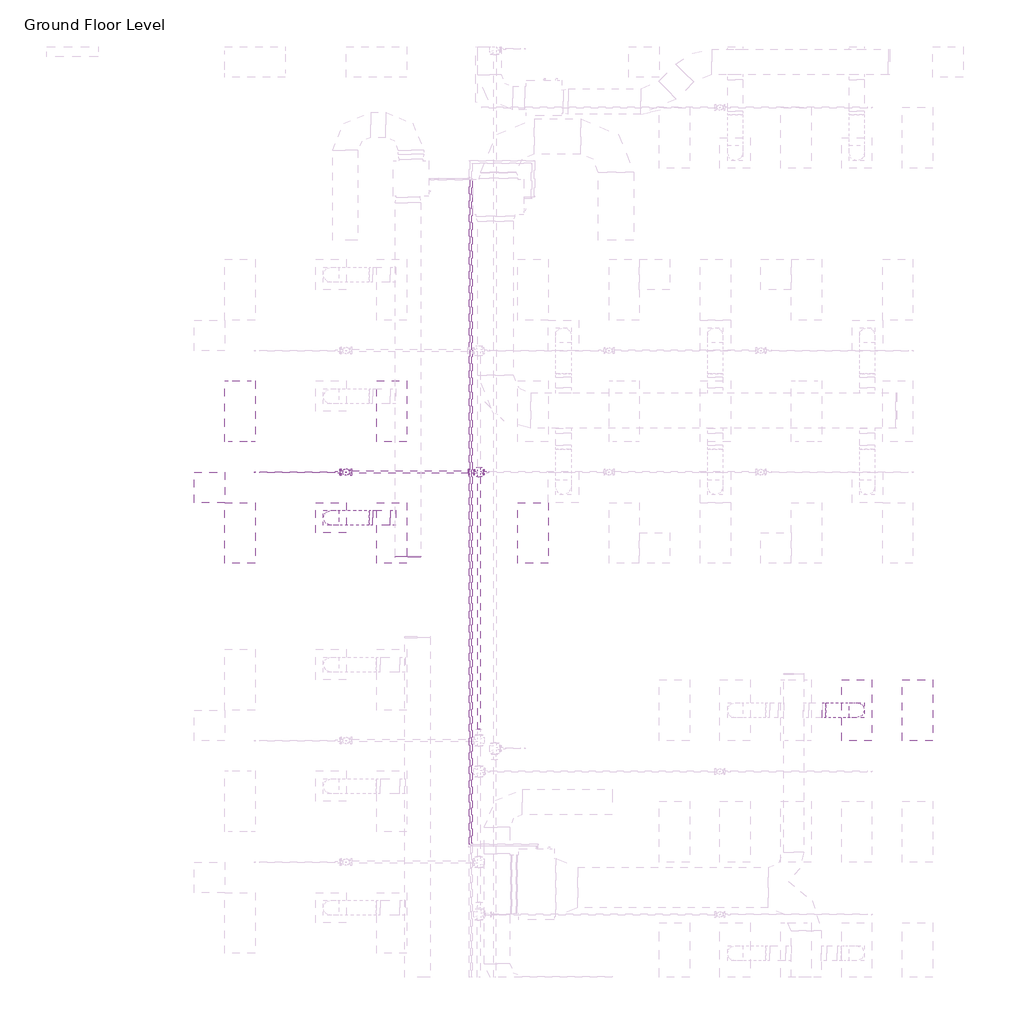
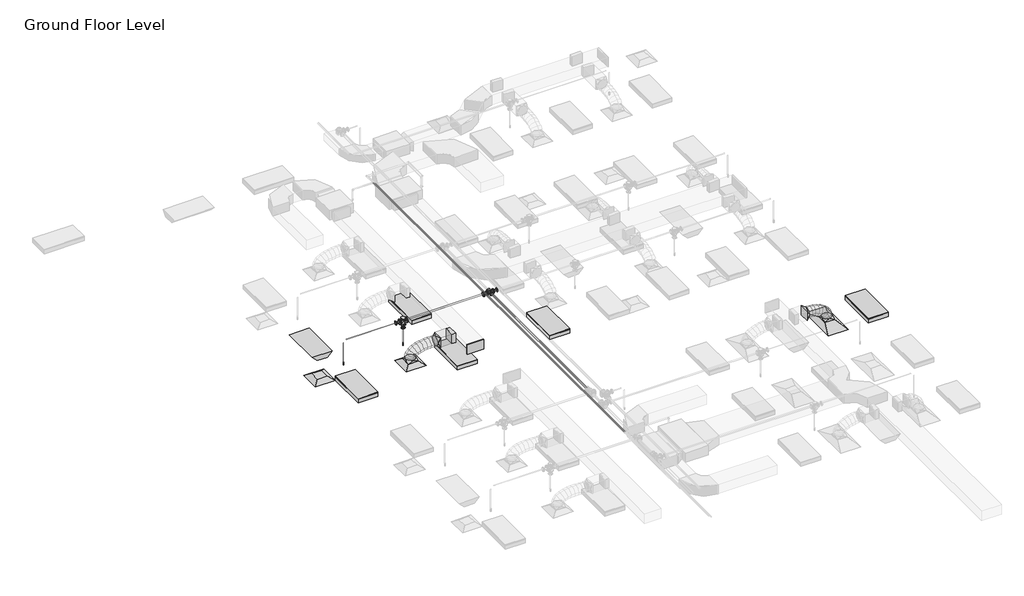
# One storey, part 28 of 66: 7 pipe segments, 6 duct fittings, 6 light fixtures, 6 pipe fittings, 3 air terminals, 3 duct segments, 2 fire suppression terminals.
"""IFC4 building model written with IfcOpenShell, lengths in millimetres."""

from ifc_helpers import new_model, si_unit, point, frame, frame_2d, origin, place, context, project, spatial, polyline, circle_curve, ellipse_curve, trimmed, segment, composite_curve, outline, extrude, transform, mapped, element, save
from ifc_brep_helpers import plane_surface, cylinder_surface, advanced_brep
from components import m_return_diffuser_600_x_600_face_300_x_300_connection_ff221211, m_return_diffuser_1200x600_1200_x_600_face_300_x_300_d1983ef6, m_rectangular_endcap_standard_72d4d00d, m_rectangular_takeoff_standard_2be5eba1, m_rectangular_to_round_transition_angle_45_degree_641efff0, m_sprinkler_dry_pendent_hosted_15_mm_dry_pendent_9bda8e11, m_emergency_recessed_lighting_fixture_600x1200_277_5b10b25d, m_troffer_light_parabolic_rectangular1_0600x1200mm_4_lamp_86473d4a, m_cross_flanged_cs_class_150_standard_46ec961b, m_reducer_flanged_cs_class_150_standard_b6b67c23, m_reducer_flanged_cs_class_150_standard_83138b42, m_reducer_flanged_cs_class_150_standard_dc68ad9d, m_reducer_flanged_cs_class_150_standard_84a20e65, m_tee_round_base_flanged_cs_class_150_standard_ab36f383

model = new_model("IFC4")

# Units and contexts
model_context = context("Model", 3, world=origin())
ifc_project = project(units=[si_unit("LENGTHUNIT", "METRE", prefix="MILLI")], contexts=[model_context])

# Site, building, storey
site = spatial("IfcSite", under=ifc_project)
building = spatial("IfcBuilding", under=site)
storey = spatial("IfcBuildingStorey", under=building, Name="Ground Floor Level", Elevation=900.0)

# Air terminals
placement = place(None, origin())
m_return_diffuser_600_x_600_face_300_x_300_connection_shape = m_return_diffuser_600_x_600_face_300_x_300_connection_ff221211(model_context)
element("IfcAirTerminal", 1, ObjectType="M_Return Diffuser : 600 x 600 Face 300 x 300 Connection", at=placement, inside=storey, context=model_context, shape_type="MappedRepresentation", body=[
    mapped(m_return_diffuser_600_x_600_face_300_x_300_connection_shape, transform((362.7672395, -13664.7846466, 3650.0), x_axis=(1.0, 0.0, 0.0), y_axis=(0.0, 1.0, 0.0), z_axis=(0.0, 0.0, 1.0))),
])
m_return_diffuser_1200x600_1200_x_600_face_300_x_300_shape = m_return_diffuser_1200x600_1200_x_600_face_300_x_300_d1983ef6(model_context)
element("IfcAirTerminal", 2, ObjectType="M_Supply Diffuser 1200x600 : 1200 x 600 Face 300 x 300 Connection", at=placement, inside=storey, context=model_context, shape_type="MappedRepresentation", body=[
    mapped(m_return_diffuser_1200x600_1200_x_600_face_300_x_300_shape, transform((13143.0482736, -18064.7846466, 3650.0), x_axis=(0.0, 1.0, 0.0), y_axis=(-1.0, 0.0, 0.0), z_axis=(0.0, 0.0, 1.0))),
])
element("IfcAirTerminal", 3, ObjectType="M_Supply Diffuser : 600 x 600 Face 300 x 300 Connection", at=placement, inside=storey, context=model_context, shape_type="MappedRepresentation", body=[
    mapped(m_return_diffuser_600_x_600_face_300_x_300_connection_shape, transform((2762.7672395, -14264.7846466, 3650.0), x_axis=(1.0, 0.0, 0.0), y_axis=(0.0, 1.0, 0.0), z_axis=(0.0, 0.0, 1.0))),
])

# Duct fittings
m_rectangular_endcap_standard_shape = m_rectangular_endcap_standard_72d4d00d(model_context)
element("IfcDuctFitting", 4, ObjectType="M_Rectangular Endcap : Standard", at=placement, inside=storey, context=model_context, shape_type="MappedRepresentation", body=[
    mapped(m_rectangular_endcap_standard_shape, transform((4282.1581888, -15020.4566353, 4099.9874218), x_axis=(0.0, -0.9999999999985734, -1.689189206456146e-06), y_axis=(1.0, 0.0, 0.0), z_axis=(0.0, -1.689189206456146e-06, 0.9999999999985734))),
])
m_rectangular_takeoff_standard_shape = m_rectangular_takeoff_standard_2be5eba1(model_context)
element("IfcDuctFitting", 5, ObjectType="M_Rectangular Takeoff : Standard", at=placement, inside=storey, context=model_context, shape_type="MappedRepresentation", body=[
    mapped(m_rectangular_takeoff_standard_shape, transform((4032.1581888, -14264.7846466, 4099.9887842), x_axis=(-1.0, 0.0, 0.0), y_axis=(0.0, 1.0, 0.0), z_axis=(0.0, 0.0, -1.0))),
])
m_rectangular_to_round_transition_angle_45_degree_shape = m_rectangular_to_round_transition_angle_45_degree_641efff0(model_context)
element("IfcDuctFitting", 6, ObjectType="M_Rectangular to Round Transition - Angle : 45 Degree", at=placement, inside=storey, context=model_context, shape_type="MappedRepresentation", body=[
    mapped(m_rectangular_to_round_transition_angle_45_degree_shape, transform((13143.0482736, -18064.7846466, 3751.6), x_axis=(0.0, 0.0, 1.0), y_axis=(-1.0, 0.0, 0.0), z_axis=(0.0, -1.0, 0.0))),
])
element("IfcDuctFitting", 7, ObjectType="M_Rectangular to Round Transition - Angle : 45 Degree", at=placement, inside=storey, context=model_context, shape_type="MappedRepresentation", body=[
    mapped(m_rectangular_to_round_transition_angle_45_degree_shape, transform((12461.6123423, -18064.7846466, 4150.0), x_axis=(1.0, 0.0, 0.0), y_axis=(0.0, 1.0, 0.0), z_axis=(0.0, 0.0, 1.0))),
])
element("IfcDuctFitting", 8, ObjectType="M_Rectangular to Round Transition - Angle : 45 Degree", at=placement, inside=storey, context=model_context, shape_type="MappedRepresentation", body=[
    mapped(m_rectangular_to_round_transition_angle_45_degree_shape, transform((2762.7672395, -14264.7846466, 3751.6), x_axis=(0.0, 0.0, 1.0), y_axis=(-1.0, 0.0, 0.0), z_axis=(0.0, -1.0, 0.0))),
])
element("IfcDuctFitting", 9, ObjectType="M_Rectangular to Round Transition - Angle : 45 Degree", at=placement, inside=storey, context=model_context, shape_type="MappedRepresentation", body=[
    mapped(m_rectangular_to_round_transition_angle_45_degree_shape, transform((3590.1143866, -14264.7846466, 4099.9887842), x_axis=(-1.0, 0.0, 0.0), y_axis=(0.0, -1.0, 0.0), z_axis=(0.0, 0.0, 1.0))),
])

# Duct segments
element("IfcDuctSegment", 10, ObjectType="Flex - Round", at=placement, inside=storey, context=model_context, shape_type="AdvancedBrep", body=[
    advanced_brep(
    [(13293.0482736, -18064.7846466, 3826.6), (13143.0482736, -18214.7846466, 3826.6), (12993.0482736, -18064.7846466, 3826.6), (13143.0482736, -17914.7846466, 3826.6), (13293.0482736, -18064.7846466, 3882.1261126), (13143.0482736, -18214.7846466, 3857.3049615), (12993.0482736, -18064.7846466, 3832.4838104), (13143.0482736, -17914.7846466, 3857.3049615), (13261.8549494, -18064.7846466, 3973.7995287), (13126.3868691, -18214.7846466, 3906.2708192), (12990.9187887, -18064.7846466, 3838.7421096), (13126.3868691, -17914.7846466, 3906.2708192), (13192.1209419, -18064.7846466, 4076.4123668), (13080.5088514, -18214.7846466, 3973.7798261), (12968.8967609, -18064.7846466, 3871.1472855), (13080.5088514, -17914.7846466, 3973.7798261), (13094.1929933, -18064.7846466, 4155.7111802), (13011.5735148, -18214.7846466, 4029.6013814), (12928.9540363, -18064.7846466, 3903.4915826), (13011.5735148, -17914.7846466, 4029.6013814), (12985.4484532, -18064.7846466, 4212.226815), (12925.7401534, -18214.7846466, 4074.2098454), (12866.0318537, -18064.7846466, 3936.1928758), (12925.7401534, -17914.7846466, 4074.2098454), (12871.156661, -18064.7846466, 4252.311196), (12829.1680613, -18214.7846466, 4108.0795788), (12787.1794617, -18064.7846466, 3963.8479616), (12829.1680613, -17914.7846466, 4108.0795788), (12755.4255864, -18064.7846466, 4279.3189347), (12728.0165327, -18214.7846466, 4131.684942), (12700.6074791, -18064.7846466, 3984.0509494), (12728.0165327, -17914.7846466, 4131.684942), (12642.7664277, -18064.7846466, 4294.9501488), (12628.4448617, -18214.7846466, 4145.5002956), (12614.1232957, -18064.7846466, 3996.0504424), (12628.4448617, -17914.7846466, 4145.5002956), (12547.9447851, -18064.7846466, 4300.0), (12543.9533896, -18214.7846466, 4150.0), (12539.9619941, -18064.7846466, 4000.0), (12543.9533896, -17914.7846466, 4150.0), (12536.6123423, -18064.7846466, 4300.0), (12536.6123423, -17914.7846466, 4150.0), (12536.6123423, -18064.7846466, 4000.0), (12536.6123423, -18214.7846466, 4150.0)],
    [
        (0, 1, circle_curve(frame((13143.0482736, -18064.7846466, 3826.6), z_axis=(0.0, 0.0, -1.0), x_axis=(1.0, 0.0, 0.0)), 150.0)),
        (1, 2, circle_curve(frame((13143.0482736, -18064.7846466, 3826.6), z_axis=(0.0, 0.0, -1.0), x_axis=(1.0, 0.0, 0.0)), 150.0)),
        (2, 3, circle_curve(frame((13143.0482736, -18064.7846466, 3826.6), z_axis=(0.0, 0.0, -1.0), x_axis=(1.0, 0.0, 0.0)), 150.0)),
        (3, 0, circle_curve(frame((13143.0482736, -18064.7846466, 3826.6), z_axis=(0.0, 0.0, -1.0), x_axis=(1.0, 0.0, 0.0)), 150.0)),
        (0, 4),
        (4, 5, ellipse_curve(frame((13143.0482736, -18064.7846466, 3857.3049615), z_axis=(0.16325433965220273, 0.0, -0.9865840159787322), x_axis=(-0.9865840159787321, 0.0, -0.1632543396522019)), 152.039763, 150.0)),
        (5, 1),
        (5, 6, ellipse_curve(frame((13143.0482736, -18064.7846466, 3857.3049615), z_axis=(0.16325433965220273, 0.0, -0.9865840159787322), x_axis=(-0.9865840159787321, 0.0, -0.1632543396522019)), 152.039763, 150.0)),
        (6, 2),
        (6, 7, ellipse_curve(frame((13143.0482736, -18064.7846466, 3857.3049615), z_axis=(0.16325433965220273, 0.0, -0.9865840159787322), x_axis=(-0.9865840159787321, 0.0, -0.1632543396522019)), 152.039763, 150.0)),
        (7, 3),
        (7, 4, ellipse_curve(frame((13143.0482736, -18064.7846466, 3857.3049615), z_axis=(0.16325433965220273, 0.0, -0.9865840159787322), x_axis=(-0.9865840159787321, 0.0, -0.1632543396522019)), 152.039763, 150.0)),
        (4, 8),
        (8, 9, ellipse_curve(frame((13126.3868691, -18064.7846466, 3906.2708192), z_axis=(0.44612805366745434, 0.0, -0.8949691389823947), x_axis=(-0.8949691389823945, 0.0, -0.4461280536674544)), 151.366203, 150.0)),
        (9, 5),
        (9, 10, ellipse_curve(frame((13126.3868691, -18064.7846466, 3906.2708192), z_axis=(0.44612805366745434, 0.0, -0.8949691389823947), x_axis=(-0.8949691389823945, 0.0, -0.4461280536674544)), 151.366203, 150.0)),
        (10, 6),
        (10, 11, ellipse_curve(frame((13126.3868691, -18064.7846466, 3906.2708192), z_axis=(0.44612805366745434, 0.0, -0.8949691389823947), x_axis=(-0.8949691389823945, 0.0, -0.4461280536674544)), 151.366203, 150.0)),
        (11, 7),
        (11, 8, ellipse_curve(frame((13126.3868691, -18064.7846466, 3906.2708192), z_axis=(0.44612805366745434, 0.0, -0.8949691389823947), x_axis=(-0.8949691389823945, 0.0, -0.4461280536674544)), 151.366203, 150.0)),
        (8, 12),
        (12, 13, ellipse_curve(frame((13080.5088514, -18064.7846466, 3973.7798261), z_axis=(0.6768758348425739, 0.0, -0.7360972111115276), x_axis=(-0.7360972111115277, 0.0, -0.6768758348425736)), 151.6268352, 150.0)),
        (13, 9),
        (13, 14, ellipse_curve(frame((13080.5088514, -18064.7846466, 3973.7798261), z_axis=(0.6768758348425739, 0.0, -0.7360972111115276), x_axis=(-0.7360972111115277, 0.0, -0.6768758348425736)), 151.6268352, 150.0)),
        (14, 10),
        (14, 15, ellipse_curve(frame((13080.5088514, -18064.7846466, 3973.7798261), z_axis=(0.6768758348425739, 0.0, -0.7360972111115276), x_axis=(-0.7360972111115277, 0.0, -0.6768758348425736)), 151.6268352, 150.0)),
        (15, 11),
        (15, 12, ellipse_curve(frame((13080.5088514, -18064.7846466, 3973.7798261), z_axis=(0.6768758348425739, 0.0, -0.7360972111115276), x_axis=(-0.7360972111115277, 0.0, -0.6768758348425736)), 151.6268352, 150.0)),
        (12, 16),
        (16, 17, ellipse_curve(frame((13011.5735148, -18064.7846466, 4029.6013814), z_axis=(0.8364738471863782, 0.0, -0.548006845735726), x_axis=(-0.5480068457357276, 0.0, -0.836473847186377)), 150.7635884, 150.0)),
        (17, 13),
        (17, 18, ellipse_curve(frame((13011.5735148, -18064.7846466, 4029.6013814), z_axis=(0.8364738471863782, 0.0, -0.548006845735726), x_axis=(-0.5480068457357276, 0.0, -0.836473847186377)), 150.7635884, 150.0)),
        (18, 14),
        (18, 19, ellipse_curve(frame((13011.5735148, -18064.7846466, 4029.6013814), z_axis=(0.8364738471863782, 0.0, -0.548006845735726), x_axis=(-0.5480068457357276, 0.0, -0.836473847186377)), 150.7635884, 150.0)),
        (19, 15),
        (19, 16, ellipse_curve(frame((13011.5735148, -18064.7846466, 4029.6013814), z_axis=(0.8364738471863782, 0.0, -0.548006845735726), x_axis=(-0.5480068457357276, 0.0, -0.836473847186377)), 150.7635884, 150.0)),
        (16, 20),
        (20, 21, ellipse_curve(frame((12925.7401534, -18064.7846466, 4074.2098454), z_axis=(0.9177957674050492, 0.0, -0.39705280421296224), x_axis=(-0.397052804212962, 0.0, -0.9177957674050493)), 150.3787384, 150.0)),
        (21, 17),
        (21, 22, ellipse_curve(frame((12925.7401534, -18064.7846466, 4074.2098454), z_axis=(0.9177957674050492, 0.0, -0.39705280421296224), x_axis=(-0.397052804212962, 0.0, -0.9177957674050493)), 150.3787384, 150.0)),
        (22, 18),
        (22, 23, ellipse_curve(frame((12925.7401534, -18064.7846466, 4074.2098454), z_axis=(0.9177957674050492, 0.0, -0.39705280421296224), x_axis=(-0.397052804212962, 0.0, -0.9177957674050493)), 150.3787384, 150.0)),
        (23, 19),
        (23, 20, ellipse_curve(frame((12925.7401534, -18064.7846466, 4074.2098454), z_axis=(0.9177957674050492, 0.0, -0.39705280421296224), x_axis=(-0.397052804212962, 0.0, -0.9177957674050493)), 150.3787384, 150.0)),
        (20, 24),
        (24, 25, ellipse_curve(frame((12829.1680613, -18064.7846466, 4108.0795788), z_axis=(0.960141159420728, 0.0, -0.27951557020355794), x_axis=(-0.2795155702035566, 0.0, -0.9601411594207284)), 150.2191795, 150.0)),
        (25, 21),
        (25, 26, ellipse_curve(frame((12829.1680613, -18064.7846466, 4108.0795788), z_axis=(0.960141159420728, 0.0, -0.27951557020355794), x_axis=(-0.2795155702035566, 0.0, -0.9601411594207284)), 150.2191795, 150.0)),
        (26, 22),
        (26, 27, ellipse_curve(frame((12829.1680613, -18064.7846466, 4108.0795788), z_axis=(0.960141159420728, 0.0, -0.27951557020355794), x_axis=(-0.2795155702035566, 0.0, -0.9601411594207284)), 150.2191795, 150.0)),
        (27, 23),
        (27, 24, ellipse_curve(frame((12829.1680613, -18064.7846466, 4108.0795788), z_axis=(0.960141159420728, 0.0, -0.27951557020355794), x_axis=(-0.2795155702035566, 0.0, -0.9601411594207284)), 150.2191795, 150.0)),
        (24, 28),
        (28, 29, ellipse_curve(frame((12728.0165327, -18064.7846466, 4131.684942), z_axis=(0.9831991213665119, 0.0, -0.18253626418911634), x_axis=(-0.18253626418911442, 0.0, -0.9831991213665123)), 150.1567581, 150.0)),
        (29, 25),
        (29, 30, ellipse_curve(frame((12728.0165327, -18064.7846466, 4131.684942), z_axis=(0.9831991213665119, 0.0, -0.18253626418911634), x_axis=(-0.18253626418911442, 0.0, -0.9831991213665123)), 150.1567581, 150.0)),
        (30, 26),
        (30, 31, ellipse_curve(frame((12728.0165327, -18064.7846466, 4131.684942), z_axis=(0.9831991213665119, 0.0, -0.18253626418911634), x_axis=(-0.18253626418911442, 0.0, -0.9831991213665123)), 150.1567581, 150.0)),
        (31, 27),
        (31, 28, ellipse_curve(frame((12728.0165327, -18064.7846466, 4131.684942), z_axis=(0.9831991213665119, 0.0, -0.18253626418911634), x_axis=(-0.18253626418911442, 0.0, -0.9831991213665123)), 150.1567581, 150.0)),
        (28, 32),
        (32, 33, ellipse_curve(frame((12628.4448617, -18064.7846466, 4145.5002956), z_axis=(0.9954398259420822, 0.0, -0.09539157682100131), x_axis=(-0.09539157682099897, 0.0, -0.9954398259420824)), 150.1344926, 150.0)),
        (33, 29),
        (33, 34, ellipse_curve(frame((12628.4448617, -18064.7846466, 4145.5002956), z_axis=(0.9954398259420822, 0.0, -0.09539157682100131), x_axis=(-0.09539157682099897, 0.0, -0.9954398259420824)), 150.1344926, 150.0)),
        (34, 30),
        (34, 35, ellipse_curve(frame((12628.4448617, -18064.7846466, 4145.5002956), z_axis=(0.9954398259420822, 0.0, -0.09539157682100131), x_axis=(-0.09539157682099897, 0.0, -0.9954398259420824)), 150.1344926, 150.0)),
        (35, 31),
        (35, 32, ellipse_curve(frame((12628.4448617, -18064.7846466, 4145.5002956), z_axis=(0.9954398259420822, 0.0, -0.09539157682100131), x_axis=(-0.09539157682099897, 0.0, -0.9954398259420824)), 150.1344926, 150.0)),
        (32, 36),
        (36, 37, ellipse_curve(frame((12543.9533896, -18064.7846466, 4150.0), z_axis=(0.9996461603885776, 0.0, -0.02659988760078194), x_axis=(-0.026599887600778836, 0.0, -0.9996461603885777)), 150.0530947, 150.0)),
        (37, 33),
        (37, 38, ellipse_curve(frame((12543.9533896, -18064.7846466, 4150.0), z_axis=(0.9996461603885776, 0.0, -0.02659988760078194), x_axis=(-0.026599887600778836, 0.0, -0.9996461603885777)), 150.0530947, 150.0)),
        (38, 34),
        (38, 39, ellipse_curve(frame((12543.9533896, -18064.7846466, 4150.0), z_axis=(0.9996461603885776, 0.0, -0.02659988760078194), x_axis=(-0.026599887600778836, 0.0, -0.9996461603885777)), 150.0530947, 150.0)),
        (39, 35),
        (39, 36, ellipse_curve(frame((12543.9533896, -18064.7846466, 4150.0), z_axis=(0.9996461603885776, 0.0, -0.02659988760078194), x_axis=(-0.026599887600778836, 0.0, -0.9996461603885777)), 150.0530947, 150.0)),
        (40, 41, circle_curve(frame((12536.6123423, -18064.7846466, 4150.0), z_axis=(-1.0, 0.0, 0.0), x_axis=(0.0, 0.0, 1.0)), 150.0)),
        (41, 42, circle_curve(frame((12536.6123423, -18064.7846466, 4150.0), z_axis=(-1.0, 0.0, 0.0), x_axis=(0.0, 0.0, 1.0)), 150.0)),
        (42, 43, circle_curve(frame((12536.6123423, -18064.7846466, 4150.0), z_axis=(-1.0, 0.0, 0.0), x_axis=(0.0, 0.0, 1.0)), 150.0)),
        (43, 40, circle_curve(frame((12536.6123423, -18064.7846466, 4150.0), z_axis=(-1.0, 0.0, 0.0), x_axis=(0.0, 0.0, 1.0)), 150.0)),
        (36, 40),
        (43, 37),
        (42, 38),
        (41, 39),
    ],
    [
        plane_surface(frame((13143.0482736, -18214.7846466, 3826.6), z_axis=(0.0, 0.0, -1.0), x_axis=(1.0, 0.0, 0.0))),
        cylinder_surface(frame((13143.0482736, -18064.7846466, 3826.6), z_axis=(0.0, 0.0, -1.0), x_axis=(1.0, 0.0, 0.0)), 150.0),
        cylinder_surface(frame((13143.0482736, -18064.7846466, 3857.3049615), z_axis=(0.3221282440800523, 0.0, -0.9466960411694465), x_axis=(0.9466960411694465, 0.0, 0.3221282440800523)), 150.0),
        cylinder_surface(frame((13126.3868691, -18064.7846466, 3906.2708192), z_axis=(0.5620745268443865, 0.0, -0.8270865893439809), x_axis=(0.8270865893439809, 0.0, 0.5620745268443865)), 150.0),
        cylinder_surface(frame((13080.5088514, -18064.7846466, 3973.7798261), z_axis=(0.7771524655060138, 0.0, -0.6293123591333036), x_axis=(0.6293123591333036, 0.0, 0.7771524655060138)), 150.0),
        cylinder_surface(frame((13011.5735148, -18064.7846466, 4029.6013814), z_axis=(0.8873220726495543, 0.0, -0.4611502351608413), x_axis=(0.4611502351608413, 0.0, 0.8873220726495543)), 150.0),
        cylinder_surface(frame((12925.7401534, -18064.7846466, 4074.2098454), z_axis=(0.943646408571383, 0.0, -0.3309553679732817), x_axis=(0.3309553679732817, 0.0, 0.943646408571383)), 150.0),
        cylinder_surface(frame((12829.1680613, -18064.7846466, 4108.0795788), z_axis=(0.9738340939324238, 0.0, -0.22726010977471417), x_axis=(0.22726010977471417, 0.0, 0.9738340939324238)), 150.0),
        cylinder_surface(frame((12728.0165327, -18064.7846466, 4131.684942), z_axis=(0.9905113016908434, 0.0, -0.1374312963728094), x_axis=(0.1374312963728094, 0.0, 0.9905113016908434)), 150.0),
        cylinder_surface(frame((12628.4448617, -18064.7846466, 4145.5002956), z_axis=(0.9985848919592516, 0.0, -0.05318095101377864), x_axis=(0.05318095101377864, 0.0, 0.9985848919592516)), 150.0),
        plane_surface(frame((12536.6123423, -18064.7846466, 4000.0), z_axis=(-1.0, 0.0, 0.0), x_axis=(0.0, -1.0, 0.0))),
        cylinder_surface(frame((12543.9533896, -18064.7846466, 4150.0), z_axis=(1.0, 0.0, 0.0), x_axis=(0.0, 0.0, 1.0)), 150.0),
    ],
    [
        (0, [[1, 2, 3, 4]]),
        (1, [[-1, 5, 6, 7]]),
        (1, [[-2, -7, 8, 9]]),
        (1, [[-3, -9, 10, 11]]),
        (1, [[-4, -11, 12, -5]]),
        (2, [[-6, 13, 14, 15]]),
        (2, [[-8, -15, 16, 17]]),
        (2, [[-10, -17, 18, 19]]),
        (2, [[-12, -19, 20, -13]]),
        (3, [[-14, 21, 22, 23]]),
        (3, [[-16, -23, 24, 25]]),
        (3, [[-18, -25, 26, 27]]),
        (3, [[-20, -27, 28, -21]]),
        (4, [[-22, 29, 30, 31]]),
        (4, [[-24, -31, 32, 33]]),
        (4, [[-26, -33, 34, 35]]),
        (4, [[-28, -35, 36, -29]]),
        (5, [[-30, 37, 38, 39]]),
        (5, [[-32, -39, 40, 41]]),
        (5, [[-34, -41, 42, 43]]),
        (5, [[-36, -43, 44, -37]]),
        (6, [[-38, 45, 46, 47]]),
        (6, [[-40, -47, 48, 49]]),
        (6, [[-42, -49, 50, 51]]),
        (6, [[-44, -51, 52, -45]]),
        (7, [[-46, 53, 54, 55]]),
        (7, [[-48, -55, 56, 57]]),
        (7, [[-50, -57, 58, 59]]),
        (7, [[-52, -59, 60, -53]]),
        (8, [[-54, 61, 62, 63]]),
        (8, [[-56, -63, 64, 65]]),
        (8, [[-58, -65, 66, 67]]),
        (8, [[-60, -67, 68, -61]]),
        (9, [[-62, 69, 70, 71]]),
        (9, [[-64, -71, 72, 73]]),
        (9, [[-66, -73, 74, 75]]),
        (9, [[-68, -75, 76, -69]]),
        (10, [[77, 78, 79, 80]]),
        (11, [[-70, 81, -80, 82]]),
        (11, [[-72, -82, -79, 83]]),
        (11, [[-74, -83, -78, 84]]),
        (11, [[-76, -84, -77, -81]]),
    ],
),
])
element("IfcDuctSegment", 11, ObjectType="Flex - Round", at=placement, inside=storey, context=model_context, shape_type="AdvancedBrep", body=[
    advanced_brep(
    [(2912.7672395, -14264.7846466, 3826.6), (2762.7672395, -14414.7846466, 3826.6), (2612.7672395, -14264.7846466, 3826.6), (2762.7672395, -14114.7846466, 3826.6), (2912.7672395, -14264.7846466, 3832.2943846), (2762.7672395, -14414.7846466, 3857.9381822), (2612.7672395, -14264.7846466, 3883.5819799), (2762.7672395, -14114.7846466, 3857.9381822), (2913.5207556, -14264.7846466, 3834.4337709), (2779.783483, -14414.7846466, 3906.2507773), (2646.0462104, -14264.7846466, 3978.0677838), (2779.783483, -14114.7846466, 3906.2507773), (2931.1721896, -14264.7846466, 3857.7995724), (2826.9682101, -14414.7846466, 3968.7107998), (2722.7642305, -14264.7846466, 4079.6220272), (2826.9682101, -14114.7846466, 3968.7107998), (2967.4564457, -14264.7846466, 3881.8128947), (2898.5254153, -14414.7846466, 4016.0681503), (2829.5943848, -14264.7846466, 4150.3234058), (2898.5254153, -14114.7846466, 4016.0681503), (3032.2165497, -14264.7846466, 3906.4878092), (2988.6590932, -14414.7846466, 4050.4109116), (2945.1016367, -14264.7846466, 4194.334014), (2988.6590932, -14114.7846466, 4050.4109116), (3118.131028, -14264.7846466, 3926.0360972), (3091.5732386, -14414.7846466, 4073.8271669), (3065.0154491, -14264.7846466, 4221.6182365), (3091.5732386, -14114.7846466, 4073.8271669), (3216.6200238, -14264.7846466, 3939.1004669), (3201.4718459, -14414.7846466, 4088.4049988), (3186.3236681, -14264.7846466, 4237.7095308), (3201.4718459, -14114.7846466, 4088.4049988), (3320.0621185, -14264.7846466, 3946.3892735), (3312.55891, -14414.7846466, 4096.2324904), (3305.0557014, -14264.7846466, 4246.0757073), (3312.55891, -14114.7846466, 4096.2324904), (3421.7286729, -14264.7846466, 3949.4114365), (3419.0384253, -14414.7846466, 4099.3977246), (3416.3481777, -14264.7846466, 4249.3840127), (3419.0384253, -14114.7846466, 4099.3977246), (3516.0371696, -14264.7846466, 3949.9916227), (3515.1143866, -14414.7846466, 4099.9887842), (3514.1916035, -14264.7846466, 4249.9859457), (3515.1143866, -14114.7846466, 4099.9887842)],
    [
        (0, 1, circle_curve(frame((2762.7672395, -14264.7846466, 3826.6), z_axis=(0.0, 0.0, -1.0), x_axis=(1.0, 0.0, 0.0)), 150.0)),
        (1, 2, circle_curve(frame((2762.7672395, -14264.7846466, 3826.6), z_axis=(0.0, 0.0, -1.0), x_axis=(1.0, 0.0, 0.0)), 150.0)),
        (2, 3, circle_curve(frame((2762.7672395, -14264.7846466, 3826.6), z_axis=(0.0, 0.0, -1.0), x_axis=(1.0, 0.0, 0.0)), 150.0)),
        (3, 0, circle_curve(frame((2762.7672395, -14264.7846466, 3826.6), z_axis=(0.0, 0.0, -1.0), x_axis=(1.0, 0.0, 0.0)), 150.0)),
        (0, 4),
        (4, 5, ellipse_curve(frame((2762.7672395, -14264.7846466, 3857.9381822), z_axis=(-0.1685138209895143, 0.0, -0.9856992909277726), x_axis=(0.9856992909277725, 0.0, -0.16851382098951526)), 152.176228, 150.0)),
        (5, 1),
        (5, 6, ellipse_curve(frame((2762.7672395, -14264.7846466, 3857.9381822), z_axis=(-0.1685138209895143, 0.0, -0.9856992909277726), x_axis=(0.9856992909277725, 0.0, -0.16851382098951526)), 152.176228, 150.0)),
        (6, 2),
        (6, 7, ellipse_curve(frame((2762.7672395, -14264.7846466, 3857.9381822), z_axis=(-0.1685138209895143, 0.0, -0.9856992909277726), x_axis=(0.9856992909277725, 0.0, -0.16851382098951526)), 152.176228, 150.0)),
        (7, 3),
        (7, 4, ellipse_curve(frame((2762.7672395, -14264.7846466, 3857.9381822), z_axis=(-0.1685138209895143, 0.0, -0.9856992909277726), x_axis=(0.9856992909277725, 0.0, -0.16851382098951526)), 152.176228, 150.0)),
        (4, 8),
        (8, 9, ellipse_curve(frame((2779.783483, -14264.7846466, 3906.2507773), z_axis=(-0.47310177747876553, 0.0, -0.881007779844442), x_axis=(0.8810077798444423, 0.0, -0.4731017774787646)), 151.800331, 150.0)),
        (9, 5),
        (9, 10, ellipse_curve(frame((2779.783483, -14264.7846466, 3906.2507773), z_axis=(-0.47310177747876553, 0.0, -0.881007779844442), x_axis=(0.8810077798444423, 0.0, -0.4731017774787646)), 151.800331, 150.0)),
        (10, 6),
        (10, 11, ellipse_curve(frame((2779.783483, -14264.7846466, 3906.2507773), z_axis=(-0.47310177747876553, 0.0, -0.881007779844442), x_axis=(0.8810077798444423, 0.0, -0.4731017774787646)), 151.800331, 150.0)),
        (11, 7),
        (11, 8, ellipse_curve(frame((2779.783483, -14264.7846466, 3906.2507773), z_axis=(-0.47310177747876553, 0.0, -0.881007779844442), x_axis=(0.8810077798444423, 0.0, -0.4731017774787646)), 151.800331, 150.0)),
        (8, 12),
        (12, 13, ellipse_curve(frame((2826.9682101, -14264.7846466, 3968.7107998), z_axis=(-0.7288000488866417, 0.0, -0.6847265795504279), x_axis=(0.6847265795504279, 0.0, -0.7288000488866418)), 152.1833424, 150.0)),
        (13, 9),
        (13, 14, ellipse_curve(frame((2826.9682101, -14264.7846466, 3968.7107998), z_axis=(-0.7288000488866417, 0.0, -0.6847265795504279), x_axis=(0.6847265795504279, 0.0, -0.7288000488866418)), 152.1833424, 150.0)),
        (14, 10),
        (14, 15, ellipse_curve(frame((2826.9682101, -14264.7846466, 3968.7107998), z_axis=(-0.7288000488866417, 0.0, -0.6847265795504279), x_axis=(0.6847265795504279, 0.0, -0.7288000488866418)), 152.1833424, 150.0)),
        (15, 11),
        (15, 12, ellipse_curve(frame((2826.9682101, -14264.7846466, 3968.7107998), z_axis=(-0.7288000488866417, 0.0, -0.6847265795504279), x_axis=(0.6847265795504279, 0.0, -0.7288000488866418)), 152.1833424, 150.0)),
        (12, 16),
        (16, 17, ellipse_curve(frame((2898.5254153, -14264.7846466, 4016.0681503), z_axis=(-0.8895962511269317, 0.0, -0.45674775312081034), x_axis=(0.45674775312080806, 0.0, -0.889596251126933)), 150.9170653, 150.0)),
        (17, 13),
        (17, 18, ellipse_curve(frame((2898.5254153, -14264.7846466, 4016.0681503), z_axis=(-0.8895962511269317, 0.0, -0.45674775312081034), x_axis=(0.45674775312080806, 0.0, -0.889596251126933)), 150.9170653, 150.0)),
        (18, 14),
        (18, 19, ellipse_curve(frame((2898.5254153, -14264.7846466, 4016.0681503), z_axis=(-0.8895962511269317, 0.0, -0.45674775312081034), x_axis=(0.45674775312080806, 0.0, -0.889596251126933)), 150.9170653, 150.0)),
        (19, 15),
        (19, 16, ellipse_curve(frame((2898.5254153, -14264.7846466, 4016.0681503), z_axis=(-0.8895962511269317, 0.0, -0.45674775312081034), x_axis=(0.45674775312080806, 0.0, -0.889596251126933)), 150.9170653, 150.0)),
        (16, 20),
        (20, 21, ellipse_curve(frame((2988.6590932, -14264.7846466, 4050.4109116), z_axis=(-0.9571269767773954, 0.0, -0.28966869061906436), x_axis=(0.28966869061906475, 0.0, -0.9571269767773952)), 150.3699153, 150.0)),
        (21, 17),
        (21, 22, ellipse_curve(frame((2988.6590932, -14264.7846466, 4050.4109116), z_axis=(-0.9571269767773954, 0.0, -0.28966869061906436), x_axis=(0.28966869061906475, 0.0, -0.9571269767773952)), 150.3699153, 150.0)),
        (22, 18),
        (22, 23, ellipse_curve(frame((2988.6590932, -14264.7846466, 4050.4109116), z_axis=(-0.9571269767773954, 0.0, -0.28966869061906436), x_axis=(0.28966869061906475, 0.0, -0.9571269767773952)), 150.3699153, 150.0)),
        (23, 19),
        (23, 20, ellipse_curve(frame((2988.6590932, -14264.7846466, 4050.4109116), z_axis=(-0.9571269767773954, 0.0, -0.28966869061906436), x_axis=(0.28966869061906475, 0.0, -0.9571269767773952)), 150.3699153, 150.0)),
        (20, 24),
        (24, 25, ellipse_curve(frame((3091.5732386, -14264.7846466, 4073.8271669), z_axis=(-0.9842350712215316, 0.0, -0.17686527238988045), x_axis=(0.1768652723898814, 0.0, -0.9842350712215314)), 150.1583046, 150.0)),
        (25, 21),
        (25, 26, ellipse_curve(frame((3091.5732386, -14264.7846466, 4073.8271669), z_axis=(-0.9842350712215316, 0.0, -0.17686527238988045), x_axis=(0.1768652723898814, 0.0, -0.9842350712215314)), 150.1583046, 150.0)),
        (26, 22),
        (26, 27, ellipse_curve(frame((3091.5732386, -14264.7846466, 4073.8271669), z_axis=(-0.9842350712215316, 0.0, -0.17686527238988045), x_axis=(0.1768652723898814, 0.0, -0.9842350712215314)), 150.1583046, 150.0)),
        (27, 23),
        (27, 24, ellipse_curve(frame((3091.5732386, -14264.7846466, 4073.8271669), z_axis=(-0.9842350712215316, 0.0, -0.17686527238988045), x_axis=(0.1768652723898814, 0.0, -0.9842350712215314)), 150.1583046, 150.0)),
        (24, 28),
        (28, 29, ellipse_curve(frame((3201.4718459, -14264.7846466, 4088.4049988), z_axis=(-0.994892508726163, 0.0, -0.10094006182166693), x_axis=(0.10094006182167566, 0.0, -0.9948925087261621)), 150.0710184, 150.0)),
        (29, 25),
        (29, 30, ellipse_curve(frame((3201.4718459, -14264.7846466, 4088.4049988), z_axis=(-0.994892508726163, 0.0, -0.10094006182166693), x_axis=(0.10094006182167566, 0.0, -0.9948925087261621)), 150.0710184, 150.0)),
        (30, 26),
        (30, 31, ellipse_curve(frame((3201.4718459, -14264.7846466, 4088.4049988), z_axis=(-0.994892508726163, 0.0, -0.10094006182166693), x_axis=(0.10094006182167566, 0.0, -0.9948925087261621)), 150.0710184, 150.0)),
        (31, 27),
        (31, 28, ellipse_curve(frame((3201.4718459, -14264.7846466, 4088.4049988), z_axis=(-0.994892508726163, 0.0, -0.10094006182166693), x_axis=(0.10094006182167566, 0.0, -0.9948925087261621)), 150.0710184, 150.0)),
        (28, 32),
        (32, 33, ellipse_curve(frame((3312.55891, -14264.7846466, 4096.2324904), z_axis=(-0.998748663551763, 0.0, -0.05001106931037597), x_axis=(0.050011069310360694, 0.0, -0.998748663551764)), 150.0309561, 150.0)),
        (33, 29),
        (33, 34, ellipse_curve(frame((3312.55891, -14264.7846466, 4096.2324904), z_axis=(-0.998748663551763, 0.0, -0.05001106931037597), x_axis=(0.050011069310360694, 0.0, -0.998748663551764)), 150.0309561, 150.0)),
        (34, 30),
        (34, 35, ellipse_curve(frame((3312.55891, -14264.7846466, 4096.2324904), z_axis=(-0.998748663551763, 0.0, -0.05001106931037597), x_axis=(0.050011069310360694, 0.0, -0.998748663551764)), 150.0309561, 150.0)),
        (35, 31),
        (35, 32, ellipse_curve(frame((3312.55891, -14264.7846466, 4096.2324904), z_axis=(-0.998748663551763, 0.0, -0.05001106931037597), x_axis=(0.050011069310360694, 0.0, -0.998748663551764)), 150.0309561, 150.0)),
        (32, 36),
        (36, 37, ellipse_curve(frame((3419.0384253, -14264.7846466, 4099.3977246), z_axis=(-0.9998391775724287, 0.0, -0.01793373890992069), x_axis=(0.017933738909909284, 1.8193051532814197e-12, -0.9998391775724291)), 150.0104131, 150.0)),
        (37, 33),
        (37, 38, ellipse_curve(frame((3419.0384253, -14264.7846466, 4099.3977246), z_axis=(-0.9998391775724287, 0.0, -0.01793373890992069), x_axis=(0.017933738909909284, 1.8193051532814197e-12, -0.9998391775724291)), 150.0104131, 150.0)),
        (38, 34),
        (38, 39, ellipse_curve(frame((3419.0384253, -14264.7846466, 4099.3977246), z_axis=(-0.9998391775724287, 0.0, -0.01793373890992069), x_axis=(0.017933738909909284, 1.8193051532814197e-12, -0.9998391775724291)), 150.0104131, 150.0)),
        (39, 35),
        (39, 36, ellipse_curve(frame((3419.0384253, -14264.7846466, 4099.3977246), z_axis=(-0.9998391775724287, 0.0, -0.01793373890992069), x_axis=(0.017933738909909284, 1.8193051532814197e-12, -0.9998391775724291)), 150.0104131, 150.0)),
        (36, 40),
        (40, 41, circle_curve(frame((3515.1143866, -14264.7846466, 4099.9887842), z_axis=(-0.9999810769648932, 0.0, -0.0061518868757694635), x_axis=(0.0061518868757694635, 0.0, -0.9999810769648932)), 150.0)),
        (41, 37),
        (41, 42, circle_curve(frame((3515.1143866, -14264.7846466, 4099.9887842), z_axis=(-0.9999810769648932, 0.0, -0.0061518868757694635), x_axis=(0.0061518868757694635, 0.0, -0.9999810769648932)), 150.0)),
        (42, 38),
        (42, 43, circle_curve(frame((3515.1143866, -14264.7846466, 4099.9887842), z_axis=(-0.9999810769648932, 0.0, -0.0061518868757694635), x_axis=(0.0061518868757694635, 0.0, -0.9999810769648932)), 150.0)),
        (43, 39),
        (43, 40, circle_curve(frame((3515.1143866, -14264.7846466, 4099.9887842), z_axis=(-0.9999810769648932, 0.0, -0.0061518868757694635), x_axis=(0.0061518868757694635, 0.0, -0.9999810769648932)), 150.0)),
    ],
    [
        plane_surface(frame((2762.7672395, -14414.7846466, 3826.6), z_axis=(0.0, 0.0, -1.0), x_axis=(1.0, 0.0, 0.0))),
        cylinder_surface(frame((2762.7672395, -14264.7846466, 3826.6), z_axis=(0.0, 0.0, -1.0), x_axis=(1.0, 0.0, 0.0)), 150.0),
        cylinder_surface(frame((2762.7672395, -14264.7846466, 3857.9381822), z_axis=(-0.33220790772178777, 0.0, -0.9432061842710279), x_axis=(0.9432061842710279, 0.0, -0.33220790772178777)), 150.0),
        cylinder_surface(frame((2779.783483, -14264.7846466, 3906.2507773), z_axis=(-0.6027738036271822, 0.0, -0.7979121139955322), x_axis=(0.7979121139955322, 0.0, -0.6027738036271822)), 150.0),
        cylinder_surface(frame((2826.9682101, -14264.7846466, 3968.7107998), z_axis=(-0.8339144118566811, 0.0, -0.5518937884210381), x_axis=(0.5518937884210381, 0.0, -0.8339144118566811)), 150.0),
        cylinder_surface(frame((2898.5254153, -14264.7846466, 4016.0681503), z_axis=(-0.9344666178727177, 0.0, -0.35605075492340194), x_axis=(0.35605075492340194, 0.0, -0.9344666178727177)), 150.0),
        cylinder_surface(frame((2988.6590932, -14264.7846466, 4050.4109116), z_axis=(-0.9750782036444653, 0.0, -0.22186143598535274), x_axis=(0.22186143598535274, 0.0, -0.9750782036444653)), 150.0),
        cylinder_surface(frame((3091.5732386, -14264.7846466, 4073.8271669), z_axis=(-0.9913166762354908, 0.0, -0.1314961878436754), x_axis=(0.1314961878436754, 0.0, -0.9913166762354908)), 150.0),
        cylinder_surface(frame((3201.4718459, -14264.7846466, 4088.4049988), z_axis=(-0.9975267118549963, 0.0, -0.07028839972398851), x_axis=(0.07028839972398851, 0.0, -0.9975267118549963)), 150.0),
        cylinder_surface(frame((3312.55891, -14264.7846466, 4096.2324904), z_axis=(-0.9995584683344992, 0.0, -0.02971310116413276), x_axis=(0.02971310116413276, 0.0, -0.9995584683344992)), 150.0),
        cylinder_surface(frame((3419.0384253, -14264.7846466, 4099.3977246), z_axis=(-0.9999810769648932, 0.0, -0.0061518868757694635), x_axis=(0.0061518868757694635, 0.0, -0.9999810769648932)), 150.0),
        plane_surface(frame((3515.1143866, -14414.7846466, 4099.9887842), z_axis=(0.9999810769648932, 0.0, 0.006151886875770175), x_axis=(0.006151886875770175, -3.666400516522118e-12, -0.9999810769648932))),
    ],
    [
        (0, [[1, 2, 3, 4]]),
        (1, [[-1, 5, 6, 7]]),
        (1, [[-2, -7, 8, 9]]),
        (1, [[-3, -9, 10, 11]]),
        (1, [[-4, -11, 12, -5]]),
        (2, [[-6, 13, 14, 15]]),
        (2, [[-8, -15, 16, 17]]),
        (2, [[-10, -17, 18, 19]]),
        (2, [[-12, -19, 20, -13]]),
        (3, [[-14, 21, 22, 23]]),
        (3, [[-16, -23, 24, 25]]),
        (3, [[-18, -25, 26, 27]]),
        (3, [[-20, -27, 28, -21]]),
        (4, [[-22, 29, 30, 31]]),
        (4, [[-24, -31, 32, 33]]),
        (4, [[-26, -33, 34, 35]]),
        (4, [[-28, -35, 36, -29]]),
        (5, [[-30, 37, 38, 39]]),
        (5, [[-32, -39, 40, 41]]),
        (5, [[-34, -41, 42, 43]]),
        (5, [[-36, -43, 44, -37]]),
        (6, [[-38, 45, 46, 47]]),
        (6, [[-40, -47, 48, 49]]),
        (6, [[-42, -49, 50, 51]]),
        (6, [[-44, -51, 52, -45]]),
        (7, [[-46, 53, 54, 55]]),
        (7, [[-48, -55, 56, 57]]),
        (7, [[-50, -57, 58, 59]]),
        (7, [[-52, -59, 60, -53]]),
        (8, [[-54, 61, 62, 63]]),
        (8, [[-56, -63, 64, 65]]),
        (8, [[-58, -65, 66, 67]]),
        (8, [[-60, -67, 68, -61]]),
        (9, [[-62, 69, 70, 71]]),
        (9, [[-64, -71, 72, 73]]),
        (9, [[-66, -73, 74, 75]]),
        (9, [[-68, -75, 76, -69]]),
        (10, [[-70, 77, 78, 79]]),
        (10, [[-72, -79, 80, 81]]),
        (10, [[-74, -81, 82, 83]]),
        (10, [[-76, -83, 84, -77]]),
        (11, [[-84, -82, -80, -78]]),
    ],
),
])
element("IfcDuctSegment", 12, ObjectType="Radius Elbows / Taps", at=placement, inside=storey, context=model_context, shape_type="SweptSolid", body=[
    extrude(outline(polyline([(3930.5581888, -14114.7846466), (3930.5581888, -14414.7846466), (3590.1143866, -14414.7846466), (3590.1143866, -14114.7846466), (3930.5581888, -14114.7846466)])), frame((0.0, 0.0, 3949.9887842), z_axis=(0.0, 0.0, 1.0), x_axis=(1.0, 0.0, 0.0)), (0.0, 0.0, 1.0), 300.0),
])

# Fire suppression terminals
m_sprinkler_dry_pendent_hosted_15_mm_dry_pendent_shape = m_sprinkler_dry_pendent_hosted_15_mm_dry_pendent_9bda8e11(model_context)
element("IfcFireSuppressionTerminal", 13, ObjectType="M_Sprinkler - Dry - Pendent - Hosted : 15 mm Dry Pendent", at=placement, inside=storey, context=model_context, shape_type="MappedRepresentation", body=[
    mapped(m_sprinkler_dry_pendent_hosted_15_mm_dry_pendent_shape, transform((3062.7672395, -13364.7846466, 3650.0), x_axis=(1.0, 0.0, 0.0), y_axis=(0.0, -1.0, 0.0), z_axis=(0.0, 0.0, -1.0))),
])
element("IfcFireSuppressionTerminal", 14, ObjectType="M_Sprinkler - Dry - Pendent - Hosted : 15 mm Dry Pendent", at=placement, inside=storey, context=model_context, shape_type="MappedRepresentation", body=[
    mapped(m_sprinkler_dry_pendent_hosted_15_mm_dry_pendent_shape, transform((1262.7672395, -13364.7846466, 3650.0), x_axis=(1.0, 0.0, 0.0), y_axis=(0.0, -1.0, 0.0), z_axis=(0.0, 0.0, -1.0))),
])

# Light fixtures
m_emergency_recessed_lighting_fixture_600x1200_277_shape = m_emergency_recessed_lighting_fixture_600x1200_277_5b10b25d(model_context)
element("IfcLightFixture", 15, ObjectType="M_Emergency Recessed Lighting Fixture : 600x1200 - 277", at=placement, inside=storey, context=model_context, shape_type="MappedRepresentation", body=[
    mapped(m_emergency_recessed_lighting_fixture_600x1200_277_shape, transform((662.7672395, -12764.7846466, 3650.0), x_axis=(0.0, 1.0, 0.0), y_axis=(-1.0, 0.0, 0.0), z_axis=(0.0, 0.0, 1.0))),
])
m_troffer_light_parabolic_rectangular1_0600x1200mm_4_lamp_shape = m_troffer_light_parabolic_rectangular1_0600x1200mm_4_lamp_86473d4a(model_context)
element("IfcLightFixture", 16, ObjectType="M_Troffer Light - Parabolic Rectangular1 : 0600x1200mm(4 Lamp) - 277V 2", at=placement, inside=storey, context=model_context, shape_type="MappedRepresentation", body=[
    mapped(m_troffer_light_parabolic_rectangular1_0600x1200mm_4_lamp_shape, transform((6693.3013074, -14546.081145, 3650.0), x_axis=(0.0, 1.0, 0.0), y_axis=(-1.0, 0.0, 0.0), z_axis=(0.0, 0.0, 1.0))),
])
element("IfcLightFixture", 17, ObjectType="M_Troffer Light - Parabolic Rectangular1 : 0600x1200mm(4 Lamp) - 277V 2", at=placement, inside=storey, context=model_context, shape_type="MappedRepresentation", body=[
    mapped(m_troffer_light_parabolic_rectangular1_0600x1200mm_4_lamp_shape, transform((903.3013074, -14546.081145, 3650.0), x_axis=(0.0, 1.0, 0.0), y_axis=(-1.0, 0.0, 0.0), z_axis=(0.0, 0.0, 1.0))),
])
element("IfcLightFixture", 18, ObjectType="M_Troffer Light - Parabolic Rectangular1 : 0600x1200mm(4 Lamp) - 277V 2", at=placement, inside=storey, context=model_context, shape_type="MappedRepresentation", body=[
    mapped(m_troffer_light_parabolic_rectangular1_0600x1200mm_4_lamp_shape, transform((3903.3013074, -12146.081145, 3650.0), x_axis=(0.0, 1.0, 0.0), y_axis=(-1.0, 0.0, 0.0), z_axis=(0.0, 0.0, 1.0))),
])
element("IfcLightFixture", 19, ObjectType="M_Troffer Light - Parabolic Rectangular1 : 0600x1200mm(4 Lamp) - 277V 2", at=placement, inside=storey, context=model_context, shape_type="MappedRepresentation", body=[
    mapped(m_troffer_light_parabolic_rectangular1_0600x1200mm_4_lamp_shape, transform((3903.3013074, -14546.081145, 3650.0), x_axis=(0.0, 1.0, 0.0), y_axis=(-1.0, 0.0, 0.0), z_axis=(0.0, 0.0, 1.0))),
])
element("IfcLightFixture", 20, ObjectType="M_Troffer Light - Parabolic Rectangular1 : 0600x1200mm(4 Lamp) - 277V 2", at=placement, inside=storey, context=model_context, shape_type="MappedRepresentation", body=[
    mapped(m_troffer_light_parabolic_rectangular1_0600x1200mm_4_lamp_shape, transform((14283.5823415, -18046.081145, 3650.0), x_axis=(0.0, 1.0, 0.0), y_axis=(-1.0, 0.0, 0.0), z_axis=(0.0, 0.0, 1.0))),
])

# Pipe fittings
m_cross_flanged_cs_class_150_standard_shape = m_cross_flanged_cs_class_150_standard_46ec961b(model_context)
element("IfcPipeFitting", 21, ObjectType="M_Cross - Flanged - CS - Class 150 : Standard", at=placement, inside=storey, context=model_context, shape_type="MappedRepresentation", body=[
    mapped(m_cross_flanged_cs_class_150_standard_shape, transform((5684.6174894, -13364.7846466, 4347.5), x_axis=(0.0, -1.0, 0.0), y_axis=(-1.0, 0.0, 0.0), z_axis=(0.0, 0.0, -1.0))),
])
m_reducer_flanged_cs_class_150_standard_shape = m_reducer_flanged_cs_class_150_standard_b6b67c23(model_context)
element("IfcPipeFitting", 22, ObjectType="M_Reducer - Flanged - CS - Class 150 : Standard", at=placement, inside=storey, context=model_context, shape_type="MappedRepresentation", body=[
    mapped(m_reducer_flanged_cs_class_150_standard_shape, transform((5779.6174894, -13364.7846466, 4347.5), x_axis=(1.0, 0.0, 0.0), y_axis=(0.0, 0.0, 1.0), z_axis=(0.0, -1.0, 0.0))),
])
m_reducer_flanged_cs_class_150_standard_2_shape = m_reducer_flanged_cs_class_150_standard_83138b42(model_context)
element("IfcPipeFitting", 23, ObjectType="M_Reducer - Flanged - CS - Class 150 : Standard", at=placement, inside=storey, context=model_context, shape_type="MappedRepresentation", body=[
    mapped(m_reducer_flanged_cs_class_150_standard_2_shape, transform((2950.5086457, -13364.7846466, 4347.5), x_axis=(-1.0, 0.0, 0.0), y_axis=(0.0, -1.0, 0.0), z_axis=(0.0, 0.0, 1.0))),
])
m_reducer_flanged_cs_class_150_standard_3_shape = m_reducer_flanged_cs_class_150_standard_dc68ad9d(model_context)
element("IfcPipeFitting", 24, ObjectType="M_Reducer - Flanged - CS - Class 150 : Standard", at=placement, inside=storey, context=model_context, shape_type="MappedRepresentation", body=[
    mapped(m_reducer_flanged_cs_class_150_standard_3_shape, transform((3062.7672395, -13364.7846466, 4235.2414062), x_axis=(0.0, 0.0, -1.0), y_axis=(-1.0, 0.0, 0.0), z_axis=(0.0, 1.0, 0.0))),
])
m_reducer_flanged_cs_class_150_standard_4_shape = m_reducer_flanged_cs_class_150_standard_84a20e65(model_context)
element("IfcPipeFitting", 25, ObjectType="M_Reducer - Flanged - CS - Class 150 : Standard", at=placement, inside=storey, context=model_context, shape_type="MappedRepresentation", body=[
    mapped(m_reducer_flanged_cs_class_150_standard_4_shape, transform((5589.6174894, -13364.7846466, 4347.5), x_axis=(-1.0, 0.0, 0.0), y_axis=(0.0, -1.0, 0.0), z_axis=(0.0, 0.0, 1.0))),
])
m_tee_round_base_flanged_cs_class_150_standard_shape = m_tee_round_base_flanged_cs_class_150_standard_ab36f383(model_context)
element("IfcPipeFitting", 26, ObjectType="M_Tee Round Base - Flanged - CS - Class 150 : Standard", at=placement, inside=storey, context=model_context, shape_type="MappedRepresentation", body=[
    mapped(m_tee_round_base_flanged_cs_class_150_standard_shape, transform((3062.7672395, -13364.7846466, 4347.5), x_axis=(-1.0, 0.0, 0.0), y_axis=(0.0, 0.0, 1.0), z_axis=(0.0, 1.0, 0.0))),
])

# Pipe segments
element("IfcPipeSegment", 27, ObjectType="Copper", at=placement, inside=storey, context=model_context, shape_type="SweptSolid", body=[
    extrude(outline(composite_curve([segment(trimmed(circle_curve(frame_2d((4377.5, 5543.9904113)), 4.9), [point((4377.5, 5548.8904113))], [point((4382.4, 5543.9904113))], False, "CARTESIAN"), True, "CONTINUOUS"), segment(trimmed(circle_curve(frame_2d((4377.5, 5543.9904113)), 4.9), [point((4382.4, 5543.9904113))], [point((4377.5, 5539.0904113))], False, "CARTESIAN"), True, "CONTINUOUS"), segment(trimmed(circle_curve(frame_2d((4377.5, 5543.9904113)), 4.9), [point((4377.5, 5539.0904113))], [point((4372.6, 5543.9904113))], False, "CARTESIAN"), True, "CONTINUOUS"), segment(trimmed(circle_curve(frame_2d((4377.5, 5543.9904113)), 4.9), [point((4372.6, 5543.9904113))], [point((4377.5, 5548.8904113))], False, "CARTESIAN"), True, "CONTINUOUS")], self_intersect=False)), frame((0.0, -20687.2400492, 0.0), z_axis=(0.0, 1.0, 0.0), x_axis=(0.0, 0.0, 1.0)), (0.0, 0.0, 1.0), 13078.1459139),
])
element("IfcPipeSegment", 28, ObjectType="Copper", at=placement, inside=storey, context=model_context, shape_type="SweptSolid", body=[
    extrude(outline(composite_curve([segment(trimmed(circle_curve(frame_2d((4390.0, 5497.8951827)), 8.1), [point((4390.0, 5505.9951827))], [point((4398.1, 5497.8951827))], False, "CARTESIAN"), True, "CONTINUOUS"), segment(trimmed(circle_curve(frame_2d((4390.0, 5497.8951827)), 8.1), [point((4398.1, 5497.8951827))], [point((4390.0, 5489.7951827))], False, "CARTESIAN"), True, "CONTINUOUS"), segment(trimmed(circle_curve(frame_2d((4390.0, 5497.8951827)), 8.1), [point((4390.0, 5489.7951827))], [point((4381.9, 5497.8951827))], False, "CARTESIAN"), True, "CONTINUOUS"), segment(trimmed(circle_curve(frame_2d((4390.0, 5497.8951827)), 8.1), [point((4381.9, 5497.8951827))], [point((4390.0, 5505.9951827))], False, "CARTESIAN"), True, "CONTINUOUS")], self_intersect=False)), frame((0.0, -20716.0289893, 0.0), z_axis=(0.0, 1.0, 0.0), x_axis=(0.0, 0.0, 1.0)), (0.0, 0.0, 1.0), 13128.7473539),
])
element("IfcPipeSegment", 29, ObjectType="Steel flanged", at=placement, inside=storey, context=model_context, shape_type="SweptSolid", body=[
    extrude(outline(composite_curve([segment(trimmed(circle_curve(frame_2d((1262.7672395, -13364.7846466)), 10.668), [point((1252.0992395, -13364.7846466))], [point((1262.7672395, -13354.1166466))], False, "CARTESIAN"), True, "CONTINUOUS"), segment(trimmed(circle_curve(frame_2d((1262.7672395, -13364.7846466)), 10.668), [point((1262.7672395, -13354.1166466))], [point((1273.4352395, -13364.7846466))], False, "CARTESIAN"), True, "CONTINUOUS"), segment(trimmed(circle_curve(frame_2d((1262.7672395, -13364.7846466)), 10.668), [point((1273.4352395, -13364.7846466))], [point((1262.7672395, -13375.4526466))], False, "CARTESIAN"), True, "CONTINUOUS"), segment(trimmed(circle_curve(frame_2d((1262.7672395, -13364.7846466)), 10.668), [point((1262.7672395, -13375.4526466))], [point((1252.0992395, -13364.7846466))], False, "CARTESIAN"), True, "CONTINUOUS")], self_intersect=False)), frame((0.0, 0.0, 3650.0), z_axis=(0.0, 0.0, 1.0), x_axis=(1.0, 0.0, 0.0)), (0.0, 0.0, 1.0), 604.4914062),
])
element("IfcPipeSegment", 30, ObjectType="Steel flanged", at=placement, inside=storey, context=model_context, shape_type="SweptSolid", body=[
    extrude(outline(composite_curve([segment(trimmed(circle_curve(frame_2d((4347.5, 5684.6174894)), 21.082), [point((4347.5, 5705.6994894))], [point((4368.582, 5684.6174894))], False, "CARTESIAN"), True, "CONTINUOUS"), segment(trimmed(circle_curve(frame_2d((4347.5, 5684.6174894)), 21.082), [point((4368.582, 5684.6174894))], [point((4347.5, 5663.5354894))], False, "CARTESIAN"), True, "CONTINUOUS"), segment(trimmed(circle_curve(frame_2d((4347.5, 5684.6174894)), 21.082), [point((4347.5, 5663.5354894))], [point((4326.418, 5684.6174894))], False, "CARTESIAN"), True, "CONTINUOUS"), segment(trimmed(circle_curve(frame_2d((4347.5, 5684.6174894)), 21.082), [point((4326.418, 5684.6174894))], [point((4347.5, 5705.6994894))], False, "CARTESIAN"), True, "CONTINUOUS")], self_intersect=False)), frame((0.0, -18438.5260529, 0.0), z_axis=(0.0, 1.0, 0.0), x_axis=(0.0, 0.0, 1.0)), (0.0, 0.0, 1.0), 4978.7414063),
])
element("IfcPipeSegment", 31, ObjectType="Steel flanged", at=placement, inside=storey, context=model_context, shape_type="SweptSolid", body=[
    extrude(outline(composite_curve([segment(trimmed(circle_curve(frame_2d((3062.7672395, -13364.7846466)), 10.668), [point((3052.0992395, -13364.7846466))], [point((3062.7672395, -13354.1166466))], False, "CARTESIAN"), True, "CONTINUOUS"), segment(trimmed(circle_curve(frame_2d((3062.7672395, -13364.7846466)), 10.668), [point((3062.7672395, -13354.1166466))], [point((3073.4352395, -13364.7846466))], False, "CARTESIAN"), True, "CONTINUOUS"), segment(trimmed(circle_curve(frame_2d((3062.7672395, -13364.7846466)), 10.668), [point((3073.4352395, -13364.7846466))], [point((3062.7672395, -13375.4526466))], False, "CARTESIAN"), True, "CONTINUOUS"), segment(trimmed(circle_curve(frame_2d((3062.7672395, -13364.7846466)), 10.668), [point((3062.7672395, -13375.4526466))], [point((3052.0992395, -13364.7846466))], False, "CARTESIAN"), True, "CONTINUOUS")], self_intersect=False)), frame((0.0, 0.0, 3650.0), z_axis=(0.0, 0.0, 1.0), x_axis=(1.0, 0.0, 0.0)), (0.0, 0.0, 1.0), 471.2414062),
])
element("IfcPipeSegment", 32, ObjectType="Steel flanged", at=placement, inside=storey, context=model_context, shape_type="SweptSolid", body=[
    extrude(outline(composite_curve([segment(trimmed(circle_curve(frame_2d((-13364.7846466, 4347.5)), 24.13), [point((-13388.9146466, 4347.5))], [point((-13364.7846466, 4371.63))], False, "CARTESIAN"), True, "CONTINUOUS"), segment(trimmed(circle_curve(frame_2d((-13364.7846466, 4347.5)), 24.13), [point((-13364.7846466, 4371.63))], [point((-13340.6546466, 4347.5))], False, "CARTESIAN"), True, "CONTINUOUS"), segment(trimmed(circle_curve(frame_2d((-13364.7846466, 4347.5)), 24.13), [point((-13340.6546466, 4347.5))], [point((-13364.7846466, 4323.37))], False, "CARTESIAN"), True, "CONTINUOUS"), segment(trimmed(circle_curve(frame_2d((-13364.7846466, 4347.5)), 24.13), [point((-13364.7846466, 4323.37))], [point((-13388.9146466, 4347.5))], False, "CARTESIAN"), True, "CONTINUOUS")], self_intersect=False)), frame((3175.0258332, 0.0, 0.0), z_axis=(1.0, 0.0, 0.0), x_axis=(0.0, 1.0, 0.0)), (0.0, 0.0, 1.0), 2300.5916562),
])
element("IfcPipeSegment", 33, ObjectType="Steel flanged", at=placement, inside=storey, context=model_context, shape_type="SweptSolid", body=[
    extrude(outline(composite_curve([segment(trimmed(circle_curve(frame_2d((-13364.7846466, 4347.5)), 10.668), [point((-13375.4526466, 4347.5))], [point((-13364.7846466, 4358.168))], False, "CARTESIAN"), True, "CONTINUOUS"), segment(trimmed(circle_curve(frame_2d((-13364.7846466, 4347.5)), 10.668), [point((-13364.7846466, 4358.168))], [point((-13354.1166466, 4347.5))], False, "CARTESIAN"), True, "CONTINUOUS"), segment(trimmed(circle_curve(frame_2d((-13364.7846466, 4347.5)), 10.668), [point((-13354.1166466, 4347.5))], [point((-13364.7846466, 4336.832))], False, "CARTESIAN"), True, "CONTINUOUS"), segment(trimmed(circle_curve(frame_2d((-13364.7846466, 4347.5)), 10.668), [point((-13364.7846466, 4336.832))], [point((-13375.4526466, 4347.5))], False, "CARTESIAN"), True, "CONTINUOUS")], self_intersect=False)), frame((1355.7758332, 0.0, 0.0), z_axis=(1.0, 0.0, 0.0), x_axis=(0.0, 1.0, 0.0)), (0.0, 0.0, 1.0), 1480.7328125),
])

save(model, "model.ifc")
